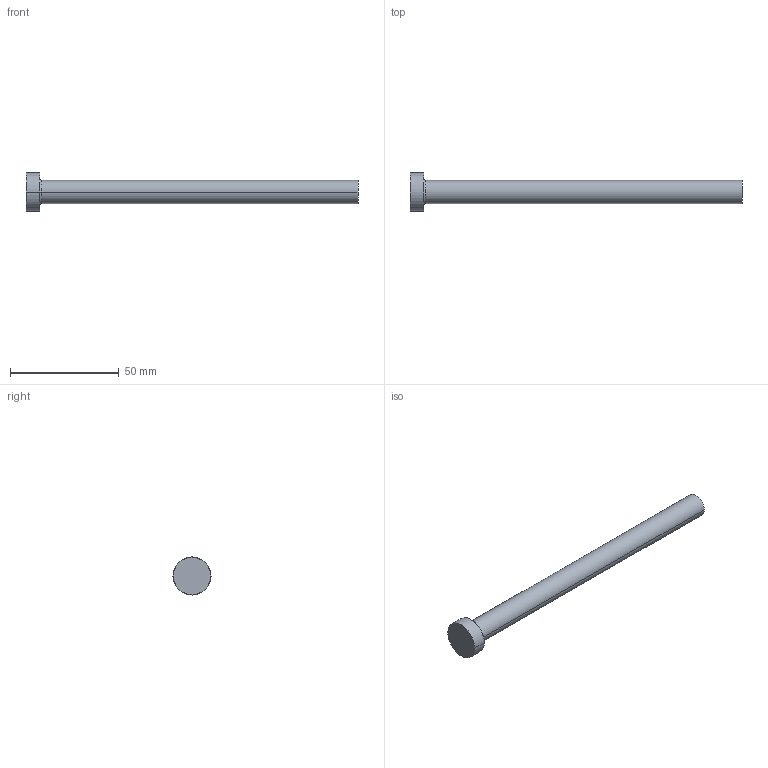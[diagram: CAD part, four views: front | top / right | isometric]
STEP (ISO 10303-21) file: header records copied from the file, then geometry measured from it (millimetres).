
FILE_DESCRIPTION (( 'STEP AP214' ), '1' );
FILE_NAME ('P28-6.STEP', '2020-03-12T10:13:16', ( '' ), ( '' ), 'SwSTEP 2.0', 'SolidWorks 2018', '' );
FILE_SCHEMA (( 'AUTOMOTIVE_DESIGN' ));
Length unit declared in the file: inch
Products named in the file (1): P28-6
Bounding box: 152.4 x 17.46 x 17.46 mm (x, y, z)
Volume: 14677.1 mm3; surface area: 5723.2 mm2
Topology: 1 solids, 1 shells, 13 faces, 24 edges, 14 vertices
Faces by surface type: cone 4, cylinder 4, plane 3, torus 2
Entity records: 366 total; most frequent: DIRECTION 68, CARTESIAN_POINT 52, ORIENTED_EDGE 48, AXIS2_PLACEMENT_3D 30, EDGE_CURVE 24, CIRCLE 16, VERTEX_POINT 14, EDGE_LOOP 14
